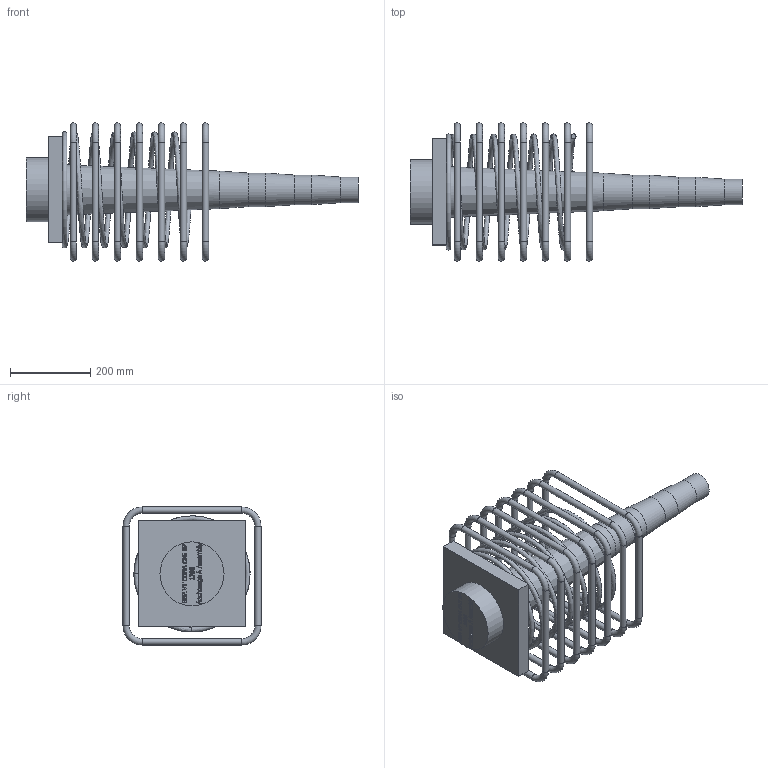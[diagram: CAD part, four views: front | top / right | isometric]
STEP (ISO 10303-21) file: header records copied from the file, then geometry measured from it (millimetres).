
FILE_DESCRIPTION(/* description */ (''),/* implementation_level */ '2;1');
FILE_NAME(/* name */ 'Z:\04 Publications\05 Give-out\BBR\6_3D_Models\BBR VT CONA CMI\BBR VT CONA CMI SP\01206\BBR VT CONA CMI SP 1206_Anchorage A Assembly_CS-34,28.stp',/* time_stamp */ '2017-05-10T08:51:54+02:00',/* author */ ('IP'),/* organization */ (''),/* preprocessor_version */ 'ST-DEVELOPER v16.1',/* originating_system */ 'Autodesk Inventor 2016',/* authorisation */ '');
FILE_SCHEMA (('AUTOMOTIVE_DESIGN { 1 0 10303 214 3 1 1 }'));
Length unit declared in the file: millimetre
Products named in the file (1): BBR VT CONA CMI SP 1206_Anchorage A Assembly_CS-34,28
Bounding box: 829.1 x 345 x 345 mm (x, y, z)
Volume: 11405344.3 mm3; surface area: 1085179 mm2
Topology: 9 solids, 9 shells, 676 faces, 1787 edges, 1171 vertices
Faces by surface type: plane 317, bspline 294, torus 32, cylinder 32, cone 1
Full cylindrical faces by diameter (mm): 16 x28, 64 x1, 74 x1, 84 x1, 160 x1
Entity records: 25550 total; most frequent: CARTESIAN_POINT 10309, ORIENTED_EDGE 3448, DIRECTION 1973, EDGE_CURVE 1721, VERTEX_POINT 1170, LINE 1061, VECTOR 1061, EDGE_LOOP 800
